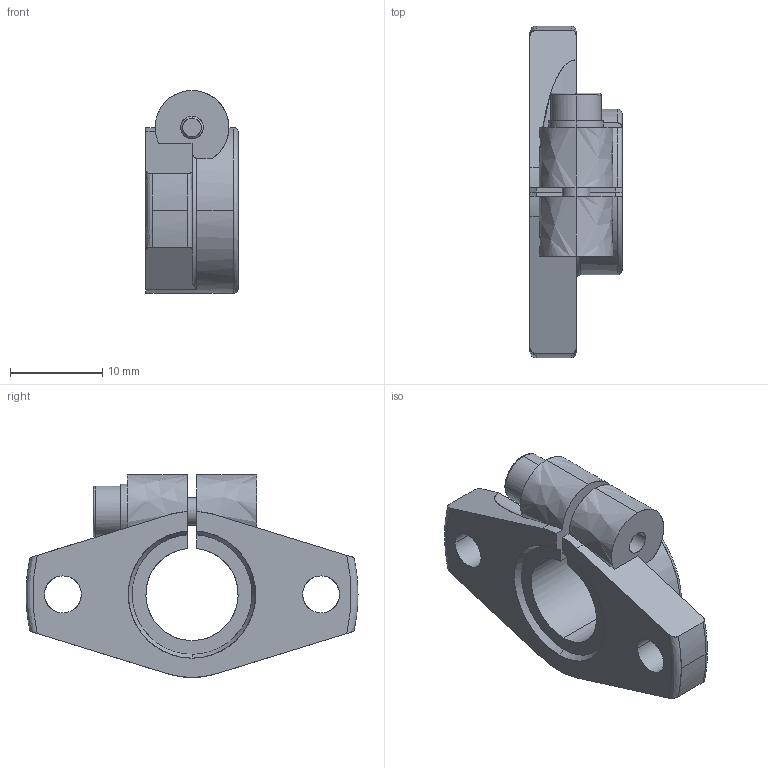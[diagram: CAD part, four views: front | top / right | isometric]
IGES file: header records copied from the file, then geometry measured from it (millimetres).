
Global section: file name: No Iges File Name specified; native system: AutoDesk Inventor R10; preprocessor: AutoDesk Inventor Iges Exporter R10; author: No Author specified; organization: No Organization specified; date: 20101214.153313; units: millimetre
Bounding box: 10 x 36 x 22 mm (x, y, z)
Surface area: 2359.7 mm2 (no closed solid volume)
Topology: 0 solids, 0 shells, 74 faces, 656 edges, 654 vertices
Faces by surface type: bspline 74
